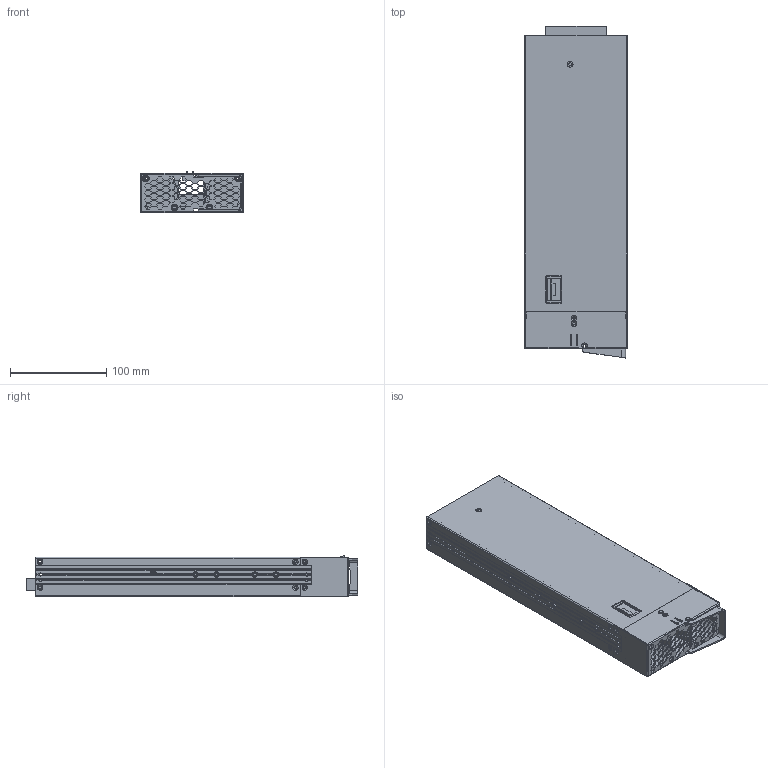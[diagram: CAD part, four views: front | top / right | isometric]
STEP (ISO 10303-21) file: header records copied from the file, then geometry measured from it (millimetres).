
FILE_DESCRIPTION((''),'2;1');
FILE_NAME('ASM0014_ASM-1_ASM','2023-04-17T',('Vincent.Kao'),(''),'CREO PARAMETRIC BY PTC INC, 2016260','CREO PARAMETRIC BY PTC INC, 2016260','');
FILE_SCHEMA(('AUTOMOTIVE_DESIGN { 1 0 10303 214 1 1 1 1 }'));
Length unit declared in the file: millimetre
Products named in the file (34): SKIN_GROUP1; SKIN_GROUP2; SKIN_GROUP3; SKIN_GROUP4; SKIN_GROUP5; SKIN_GROUP6; SKIN_GROUP7; SKIN_GROUP8; SKIN_GROUP9; SKIN_GROUP10; SKIN_GROUP11; SKIN_GROUP12; SKIN_GROUP13; SKIN_GROUP14; SKIN_GROUP15; SKIN_GROUP16; SKIN_GROUP17; SKIN_GROUP18; SKIN_GROUP19; SKIN_GROUP20; SKIN_GROUP21; SKIN_GROUP22; SKIN_GROUP23; SKIN_GROUP24; SKIN_GROUP25; SKIN_GROUP26; SKIN_GROUP27; SKIN_GROUP28; SKIN_GROUP29; SKIN_GROUP30; SKIN_GROUP31; SKIN_GROUP32; ASSEMBLY1_ASM; ASM0014_ASM-1_ASM
Assembly tree (33 placements, depth 3):
  ASM0014_ASM-1_ASM
    ASSEMBLY1_ASM
      SKIN_GROUP1
      SKIN_GROUP2
      SKIN_GROUP3
      SKIN_GROUP4
      SKIN_GROUP5
      SKIN_GROUP6
      SKIN_GROUP7
      SKIN_GROUP8
      SKIN_GROUP9
      SKIN_GROUP10
      SKIN_GROUP11
      SKIN_GROUP12
      SKIN_GROUP13
      SKIN_GROUP14
      SKIN_GROUP15
      SKIN_GROUP16
      SKIN_GROUP17
      SKIN_GROUP18
      SKIN_GROUP19
      SKIN_GROUP20
      SKIN_GROUP21
      SKIN_GROUP22
      SKIN_GROUP23
      SKIN_GROUP24
      SKIN_GROUP25
      SKIN_GROUP26
      SKIN_GROUP27
      SKIN_GROUP28
      SKIN_GROUP29
      SKIN_GROUP30
      SKIN_GROUP31
      SKIN_GROUP32
Bounding box: 106.8 x 344.37 x 42.95 mm (x, y, z)
Volume: 277472.8 mm3; surface area: 376205.7 mm2
Topology: 30 solids, 32 shells, 1462 faces, 3894 edges, 2561 vertices
Faces by surface type: plane 907, cylinder 439, cone 96, torus 14, extrusion 4, bspline 2
Entity records: 58979 total; most frequent: CARTESIAN_POINT 9401, ORIENTED_EDGE 7783, DIRECTION 7748, EDGE_CURVE 3894, VECTOR 2702, LINE 2698, VERTEX_POINT 2561, AXIS2_PLACEMENT_3D 2523
